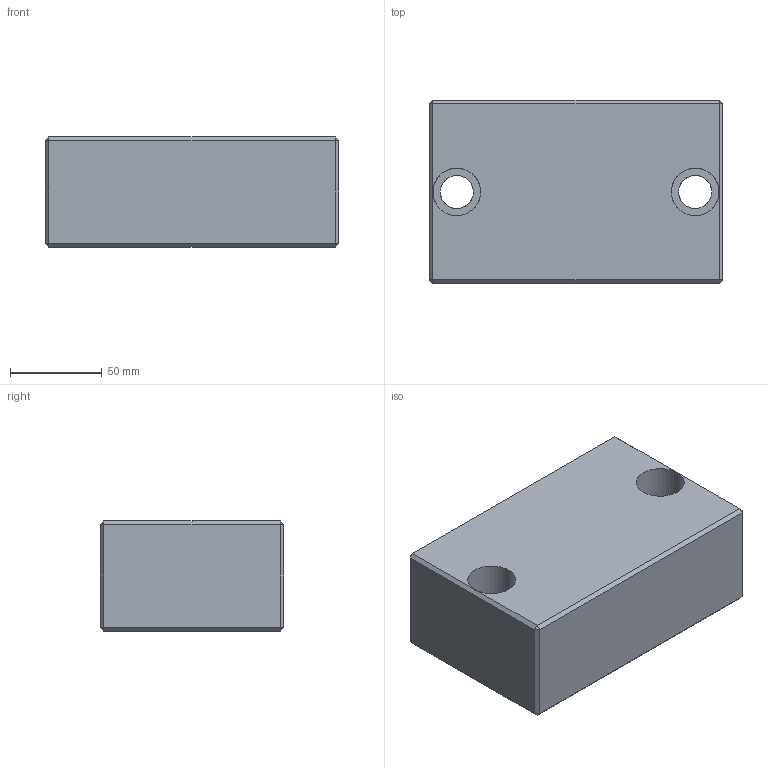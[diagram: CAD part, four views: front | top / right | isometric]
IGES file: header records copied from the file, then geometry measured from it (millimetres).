
Start section: START RECORD GO HERE.
Global section: file name: 759+160+100+60+18.igs; native system: DASSAULT SYSTEMES CATIA V5 R20 - www.3ds.com; preprocessor: CATIA Version 5 Release 20 ; author: Utente; organization: NB04-ASUS; date: 20201028.201702; units: millimetre
Bounding box: 160 x 100 x 60 mm (x, y, z)
Surface area: 69567.4 mm2 (no closed solid volume)
Topology: 0 solids, 0 shells, 36 faces, 148 edges, 146 vertices
Faces by surface type: plane 28, revolution 8
